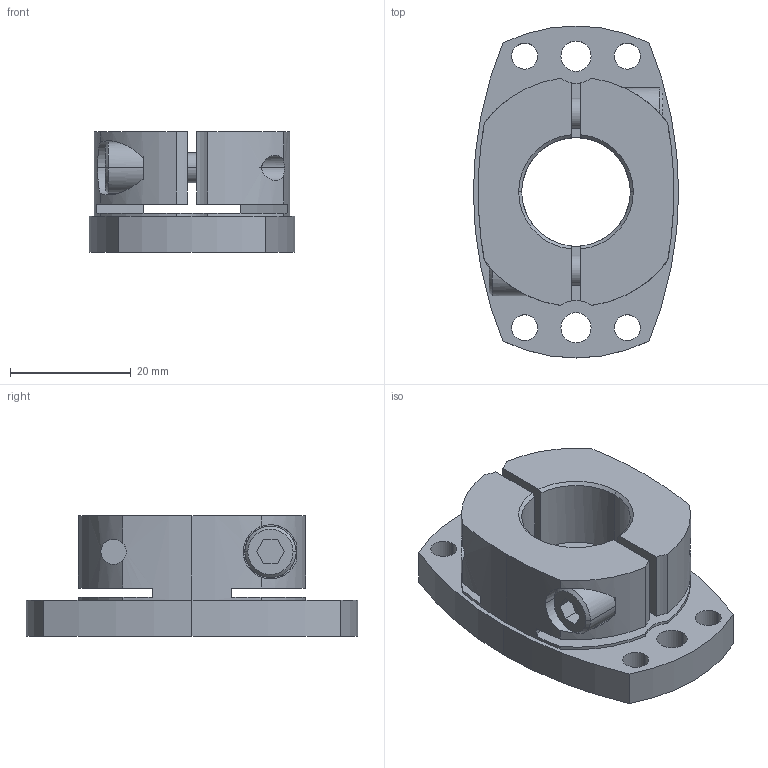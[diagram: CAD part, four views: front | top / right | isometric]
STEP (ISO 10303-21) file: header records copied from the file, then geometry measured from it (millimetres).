
FILE_DESCRIPTION((''),'2;1');
FILE_NAME('SHDB-55B-18.stp','2026-01-28T07:45:40',(''),(''),'AutoCAD STEP 2000i','AutoCAD 2000i',', , ');
FILE_SCHEMA(('CONFIG_CONTROL_DESIGN'));
Length unit declared in the file: millimetre
Products named in the file (2): SHDB-55B-17; 忣兜1
Assembly tree (1 placements, depth 2):
  SHDB-55B-17
    忣兜1
Bounding box: 34 x 55 x 20 mm (x, y, z)
Volume: 17156.7 mm3; surface area: 8809.4 mm2
Topology: 1 solids, 1 shells, 104 faces, 288 edges, 188 vertices
Faces by surface type: cylinder 58, plane 36, cone 10
Entity records: 3755 total; most frequent: CARTESIAN_POINT 862, DIRECTION 618, ORIENTED_EDGE 576, EDGE_CURVE 288, AXIS2_PLACEMENT_3D 244, VERTEX_POINT 188, CIRCLE 138, VECTOR 130
